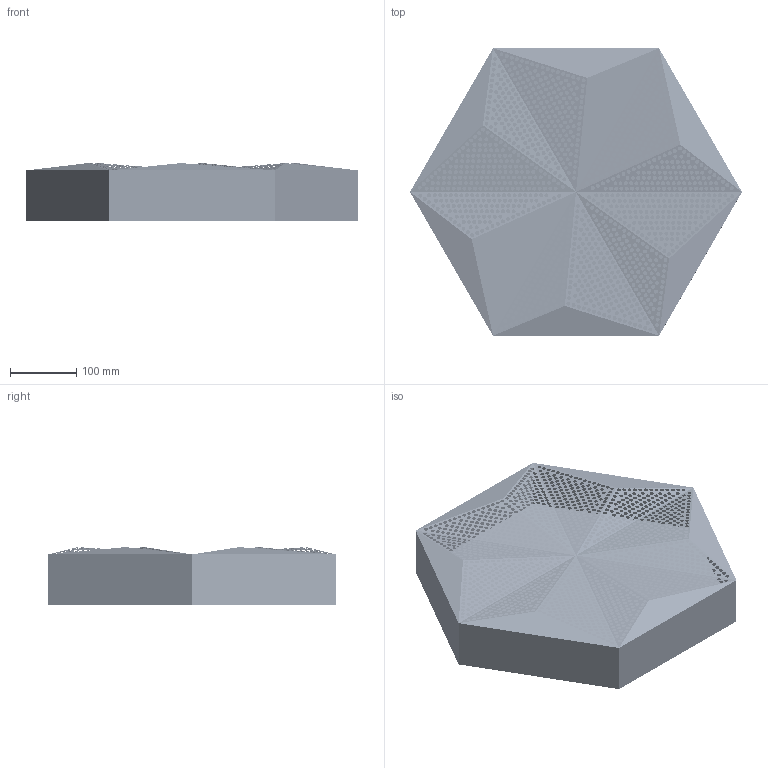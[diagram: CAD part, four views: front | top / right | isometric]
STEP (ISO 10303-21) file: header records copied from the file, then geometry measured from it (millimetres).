
FILE_DESCRIPTION(/* description */ (''),/* implementation_level */ '2;1');
FILE_NAME(/* name */ 'A03_HEXAGO_P-A',/* time_stamp */ '2025-06-24T15:55:16+02:00',/* author */ (''),/* organization */ (''),/* preprocessor_version */ 'ST-DEVELOPER v16.5',/* originating_system */ 'Rhino 7.38',/* authorisation */ '');
FILE_SCHEMA (('CONFIG_CONTROL_DESIGN'));
Length unit declared in the file: millimetre
Products named in the file (1): Document
Bounding box: 500 x 433.01 x 87 mm (x, y, z)
Surface area: 391851.8 mm2 (no closed solid volume)
Topology: 0 solids, 1 shells, 25 faces, 1776 edges, 1753 vertices
Faces by surface type: plane 25
Entity records: 33511 total; most frequent: CARTESIAN_POINT 24412, ORIENTED_EDGE 1818, EDGE_CURVE 1776, EDGE_LOOP 1759, VERTEX_POINT 1753, FACE_BOUND 1734, B_SPLINE_CURVE_WITH_KNOTS 42, DIRECTION 29
